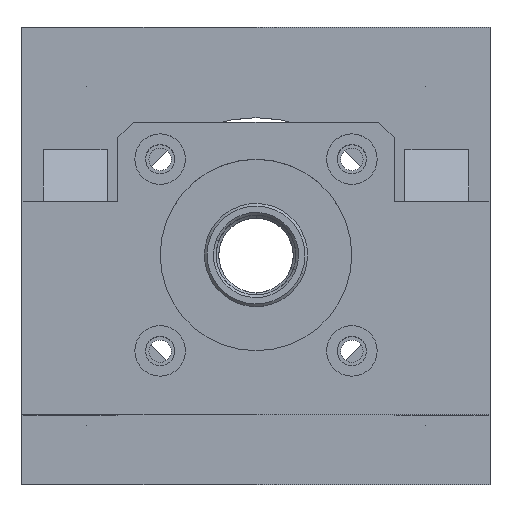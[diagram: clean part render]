
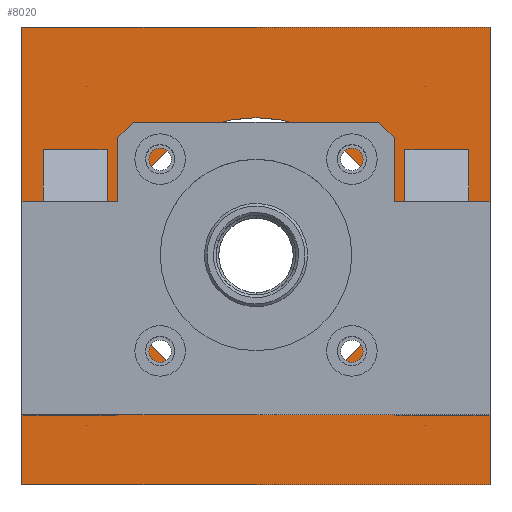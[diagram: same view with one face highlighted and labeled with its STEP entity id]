
A CAD part, top view. The second image highlights one B-rep face of the part: STEP entity #8020.
In plain terms, the highlighted planar face has unit normal (0, 0, 1).
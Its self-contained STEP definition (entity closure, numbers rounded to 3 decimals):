
#5782=DIRECTION('',(-1.,0.,0.));
#5783=VECTOR('',#5782,88.);
#5784=CARTESIAN_POINT('',(44.,43.,105.));
#5785=LINE('',#5784,#5783);
#5786=DIRECTION('',(0.,1.,0.));
#5787=VECTOR('',#5786,86.);
#5788=CARTESIAN_POINT('',(44.,-43.,105.));
#5789=LINE('',#5788,#5787);
#5790=DIRECTION('',(1.,0.,0.));
#5791=VECTOR('',#5790,88.);
#5792=CARTESIAN_POINT('',(-44.,-43.,105.));
#5793=LINE('',#5792,#5791);
#5794=DIRECTION('',(0.,-1.,0.));
#5795=VECTOR('',#5794,86.);
#5796=CARTESIAN_POINT('',(-44.,43.,105.));
#5797=LINE('',#5796,#5795);
#5798=DIRECTION('',(0.,1.,0.));
#5799=VECTOR('',#5798,50.);
#5800=CARTESIAN_POINT('',(28.,-30.,105.));
#5801=LINE('',#5800,#5799);
#5802=DIRECTION('',(-1.,0.,0.));
#5803=VECTOR('',#5802,12.);
#5804=CARTESIAN_POINT('',(40.,-30.,105.));
#5805=LINE('',#5804,#5803);
#5806=DIRECTION('',(0.,-1.,0.));
#5807=VECTOR('',#5806,50.);
#5808=CARTESIAN_POINT('',(40.,20.,105.));
#5809=LINE('',#5808,#5807);
#5810=DIRECTION('',(1.,0.,0.));
#5811=VECTOR('',#5810,12.);
#5812=CARTESIAN_POINT('',(28.,20.,105.));
#5813=LINE('',#5812,#5811);
#5814=CARTESIAN_POINT('',(0.,0.,105.));
#5815=DIRECTION('',(0.,0.,-1.));
#5816=DIRECTION('',(-1.,0.,0.));
#5817=AXIS2_PLACEMENT_3D('',#5814,#5815,#5816);
#5819=CARTESIAN_POINT('',(0.,0.,105.));
#5820=DIRECTION('',(0.,0.,-1.));
#5821=DIRECTION('',(1.,0.,0.));
#5822=AXIS2_PLACEMENT_3D('',#5819,#5820,#5821);
#5824=DIRECTION('',(0.,1.,0.));
#5825=VECTOR('',#5824,50.);
#5826=CARTESIAN_POINT('',(-40.,-30.,105.));
#5827=LINE('',#5826,#5825);
#5828=DIRECTION('',(-1.,0.,0.));
#5829=VECTOR('',#5828,12.);
#5830=CARTESIAN_POINT('',(-28.,-30.,105.));
#5831=LINE('',#5830,#5829);
#5832=DIRECTION('',(0.,-1.,0.));
#5833=VECTOR('',#5832,50.);
#5834=CARTESIAN_POINT('',(-28.,20.,105.));
#5835=LINE('',#5834,#5833);
#6126=DIRECTION('',(-1.,0.,0.));
#6127=VECTOR('',#6126,12.);
#6128=CARTESIAN_POINT('',(-28.,20.,105.));
#6129=LINE('',#6128,#6127);
#6367=CARTESIAN_POINT('',(44.,43.,105.));
#6368=CARTESIAN_POINT('',(-44.,43.,105.));
#6369=VERTEX_POINT('',#6367);
#6370=VERTEX_POINT('',#6368);
#6371=CARTESIAN_POINT('',(-44.,-43.,105.));
#6372=VERTEX_POINT('',#6371);
#6373=CARTESIAN_POINT('',(44.,-43.,105.));
#6374=VERTEX_POINT('',#6373);
#6375=CARTESIAN_POINT('',(28.,-30.,105.));
#6376=CARTESIAN_POINT('',(28.,20.,105.));
#6377=VERTEX_POINT('',#6375);
#6378=VERTEX_POINT('',#6376);
#6379=CARTESIAN_POINT('',(40.,20.,105.));
#6380=VERTEX_POINT('',#6379);
#6381=CARTESIAN_POINT('',(40.,-30.,105.));
#6382=VERTEX_POINT('',#6381);
#6383=CARTESIAN_POINT('',(-28.,20.,105.));
#6384=CARTESIAN_POINT('',(-40.,20.,105.));
#6385=VERTEX_POINT('',#6383);
#6386=VERTEX_POINT('',#6384);
#6387=CARTESIAN_POINT('',(-28.,-30.,105.));
#6388=VERTEX_POINT('',#6387);
#6389=CARTESIAN_POINT('',(-40.,-30.,105.));
#6390=VERTEX_POINT('',#6389);
#6599=CARTESIAN_POINT('',(-26.,0.,105.));
#6601=VERTEX_POINT('',#6599);
#6603=CARTESIAN_POINT('',(26.,0.,105.));
#6605=VERTEX_POINT('',#6603);
#7982=CARTESIAN_POINT('',(0.,0.,105.));
#7983=DIRECTION('',(0.,0.,-1.));
#7984=DIRECTION('',(-1.,0.,0.));
#7985=AXIS2_PLACEMENT_3D('',#7982,#7983,#7984);
#7986=PLANE('',#7985);
#7988=ORIENTED_EDGE('',*,*,#7987,.F.);
#7990=ORIENTED_EDGE('',*,*,#7989,.F.);
#7992=ORIENTED_EDGE('',*,*,#7991,.F.);
#7994=ORIENTED_EDGE('',*,*,#7993,.F.);
#7995=EDGE_LOOP('',(#7988,#7990,#7992,#7994));
#7996=FACE_OUTER_BOUND('',#7995,.F.);
#7998=ORIENTED_EDGE('',*,*,#7997,.F.);
#7999=ORIENTED_EDGE('',*,*,#6883,.F.);
#8001=ORIENTED_EDGE('',*,*,#8000,.F.);
#8003=ORIENTED_EDGE('',*,*,#8002,.F.);
#8004=EDGE_LOOP('',(#7998,#7999,#8001,#8003));
#8005=FACE_BOUND('',#8004,.F.);
#8007=ORIENTED_EDGE('',*,*,#8006,.F.);
#8009=ORIENTED_EDGE('',*,*,#8008,.F.);
#8010=EDGE_LOOP('',(#8007,#8009));
#8011=FACE_BOUND('',#8010,.F.);
#8013=ORIENTED_EDGE('',*,*,#8012,.T.);
#8014=ORIENTED_EDGE('',*,*,#7974,.F.);
#8015=ORIENTED_EDGE('',*,*,#6921,.F.);
#8017=ORIENTED_EDGE('',*,*,#8016,.F.);
#8018=EDGE_LOOP('',(#8013,#8014,#8015,#8017));
#8019=FACE_BOUND('',#8018,.F.);
#5818=CIRCLE('',#5817,26.);
#5823=CIRCLE('',#5822,26.);
#6883=EDGE_CURVE('',#6382,#6377,#5805,.T.);
#6921=EDGE_CURVE('',#6388,#6390,#5831,.T.);
#7974=EDGE_CURVE('',#6390,#6386,#5827,.T.);
#7987=EDGE_CURVE('',#6369,#6370,#5785,.T.);
#7989=EDGE_CURVE('',#6374,#6369,#5789,.T.);
#7991=EDGE_CURVE('',#6372,#6374,#5793,.T.);
#7993=EDGE_CURVE('',#6370,#6372,#5797,.T.);
#7997=EDGE_CURVE('',#6377,#6378,#5801,.T.);
#8000=EDGE_CURVE('',#6380,#6382,#5809,.T.);
#8002=EDGE_CURVE('',#6378,#6380,#5813,.T.);
#8006=EDGE_CURVE('',#6601,#6605,#5818,.T.);
#8008=EDGE_CURVE('',#6605,#6601,#5823,.T.);
#8012=EDGE_CURVE('',#6385,#6386,#6129,.T.);
#8016=EDGE_CURVE('',#6385,#6388,#5835,.T.);
#8020=ADVANCED_FACE('',(#7996,#8005,#8011,#8019),#7986,.F.);
